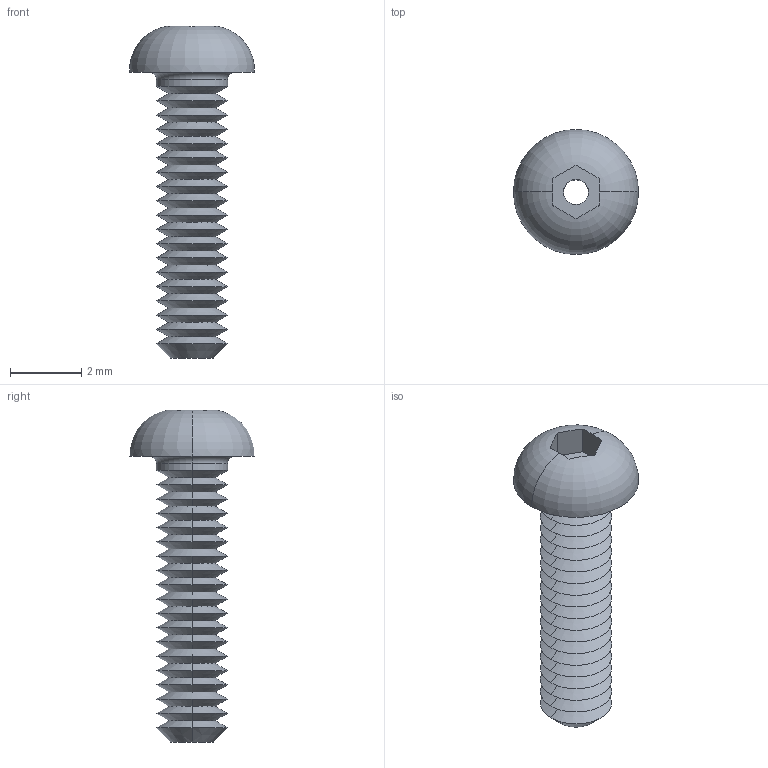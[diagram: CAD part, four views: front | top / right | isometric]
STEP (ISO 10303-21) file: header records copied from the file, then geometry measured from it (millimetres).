
FILE_DESCRIPTION (( 'STEP AP203' ), '1' );
FILE_NAME ('P0094.020-008-A2.step', '2019-07-12T16:49:28', ( '' ), ( '' ), 'SwSTEP 2.0', 'SolidWorks 2017', '' );
FILE_SCHEMA (( 'CONFIG_CONTROL_DESIGN' ));
Length unit declared in the file: millimetre
Products named in the file (1): P0094.020-008-A2
Bounding box: 3.5 x 3.5 x 9.29 mm (x, y, z)
Volume: 22.8 mm3; surface area: 126 mm2
Topology: 1 solids, 1 shells, 91 faces, 188 edges, 100 vertices
Faces by surface type: cone 74, plane 9, cylinder 4, torus 4
Entity records: 2445 total; most frequent: DIRECTION 454, CARTESIAN_POINT 416, ORIENTED_EDGE 376, EDGE_CURVE 188, AXIS2_PLACEMENT_3D 182, VERTEX_POINT 100, EDGE_LOOP 94, FACE_OUTER_BOUND 91
